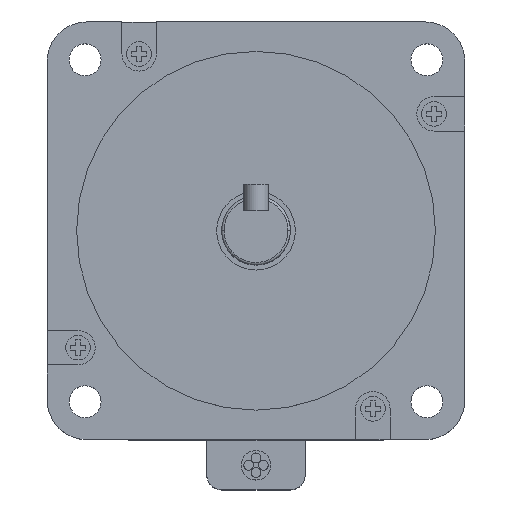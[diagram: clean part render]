
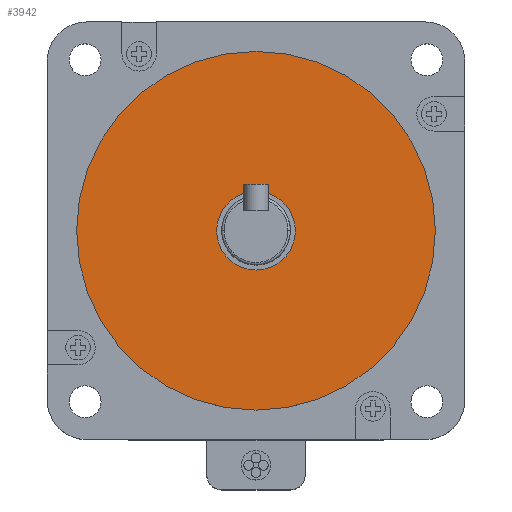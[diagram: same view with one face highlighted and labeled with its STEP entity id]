
A CAD part, top view. The second image highlights one B-rep face of the part: STEP entity #3942.
In plain terms, the highlighted planar face has unit normal (0, 0, 1).
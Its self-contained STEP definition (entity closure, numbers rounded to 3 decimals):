
#49 = FACE_BOUND ( 'NONE', #6518, .T. ) ;
#221 = VERTEX_POINT ( 'NONE', #8173 ) ;
#487 = CARTESIAN_POINT ( 'NONE',  ( 0., 0., 2. ) ) ;
#1221 = DIRECTION ( 'NONE',  ( 0., 0., -1. ) ) ;
#1235 = ORIENTED_EDGE ( 'NONE', *, *, #9044, .T. ) ;
#1259 = CARTESIAN_POINT ( 'NONE',  ( 0., 0., 2. ) ) ;
#1301 = EDGE_LOOP ( 'NONE', ( #7545, #1985 ) ) ;
#1341 = PLANE ( 'NONE',  #7778 ) ;
#1391 = VERTEX_POINT ( 'NONE', #9069 ) ;
#1539 = DIRECTION ( 'NONE',  ( 0., 0., -1. ) ) ;
#1572 = AXIS2_PLACEMENT_3D ( 'NONE', #487, #4040, #8213 ) ;
#1985 = ORIENTED_EDGE ( 'NONE', *, *, #7564, .F. ) ;
#2047 = CARTESIAN_POINT ( 'NONE',  ( 0., 0., 2. ) ) ;
#2085 = DIRECTION ( 'NONE',  ( -1., 0., 0. ) ) ;
#2114 = CIRCLE ( 'NONE', #4173, 8. ) ;
#2318 = VERTEX_POINT ( 'NONE', #8841 ) ;
#2791 = CIRCLE ( 'NONE', #1572, 36.513 ) ;
#2803 = CARTESIAN_POINT ( 'NONE',  ( 0., 0., 2. ) ) ;
#2836 = DIRECTION ( 'NONE',  ( 0., 0., -1. ) ) ;
#3942 = ADVANCED_FACE ( 'NONE', ( #4066, #49 ), #1341, .T. ) ;
#4040 = DIRECTION ( 'NONE',  ( 0., 0., -1. ) ) ;
#4066 = FACE_OUTER_BOUND ( 'NONE', #1301, .T. ) ;
#4173 = AXIS2_PLACEMENT_3D ( 'NONE', #2803, #2836, #2085 ) ;
#4380 = CIRCLE ( 'NONE', #6002, 36.513 ) ;
#5213 = ORIENTED_EDGE ( 'NONE', *, *, #7327, .T. ) ;
#5568 = EDGE_CURVE ( 'NONE', #2318, #7751, #2791, .T. ) ;
#5828 = CARTESIAN_POINT ( 'NONE',  ( 0., 0., 2. ) ) ;
#6002 = AXIS2_PLACEMENT_3D ( 'NONE', #5828, #1539, #6504 ) ;
#6202 = DIRECTION ( 'NONE',  ( -1., 0., 0. ) ) ;
#6341 = DIRECTION ( 'NONE',  ( 1., 0., 0. ) ) ;
#6504 = DIRECTION ( 'NONE',  ( -1., 0., 0. ) ) ;
#6518 = EDGE_LOOP ( 'NONE', ( #5213, #1235 ) ) ;
#6528 = AXIS2_PLACEMENT_3D ( 'NONE', #1259, #1221, #6202 ) ;
#6654 = CARTESIAN_POINT ( 'NONE',  ( 36.513, 0., 2. ) ) ;
#7008 = DIRECTION ( 'NONE',  ( 0., 0., 1. ) ) ;
#7244 = CIRCLE ( 'NONE', #6528, 8. ) ;
#7327 = EDGE_CURVE ( 'NONE', #1391, #221, #7244, .T. ) ;
#7545 = ORIENTED_EDGE ( 'NONE', *, *, #5568, .F. ) ;
#7564 = EDGE_CURVE ( 'NONE', #7751, #2318, #4380, .T. ) ;
#7751 = VERTEX_POINT ( 'NONE', #6654 ) ;
#7778 = AXIS2_PLACEMENT_3D ( 'NONE', #2047, #7008, #6341 ) ;
#8173 = CARTESIAN_POINT ( 'NONE',  ( 8., 0., 2. ) ) ;
#8213 = DIRECTION ( 'NONE',  ( -1., 0., 0. ) ) ;
#8841 = CARTESIAN_POINT ( 'NONE',  ( -36.513, 0., 2. ) ) ;
#9044 = EDGE_CURVE ( 'NONE', #221, #1391, #2114, .T. ) ;
#9069 = CARTESIAN_POINT ( 'NONE',  ( -8., 0., 2. ) ) ;
